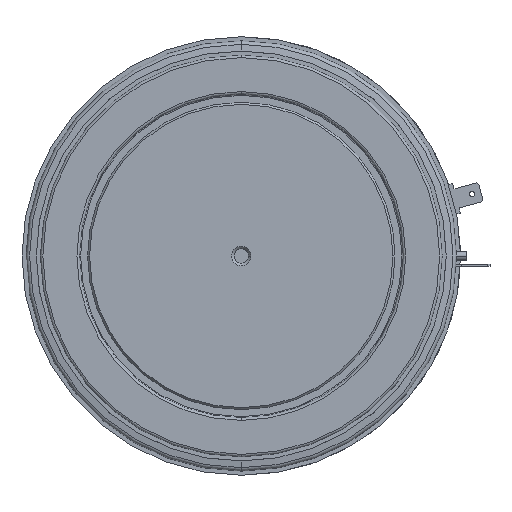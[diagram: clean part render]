
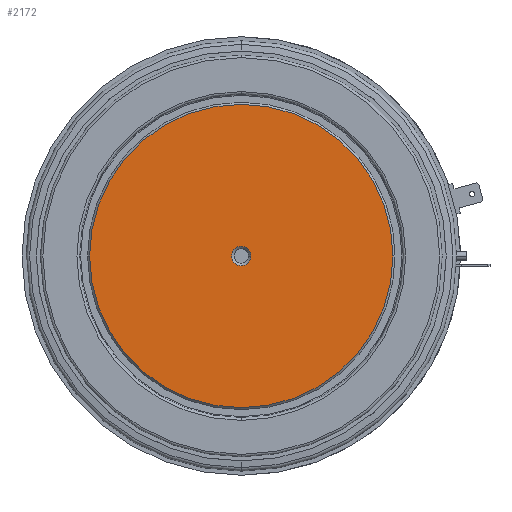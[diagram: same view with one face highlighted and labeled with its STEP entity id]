
A CAD part, front view. The second image highlights one B-rep face of the part: STEP entity #2172.
In plain terms, the highlighted planar face has unit normal (0, -1, 0).
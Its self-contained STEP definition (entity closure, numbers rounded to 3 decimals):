
#69 = AXIS2_PLACEMENT_3D ( 'NONE', #2952, #5217, #3436 ) ;
#111 = DIRECTION ( 'NONE',  ( 0., 1., 0. ) ) ;
#1031 = AXIS2_PLACEMENT_3D ( 'NONE', #1793, #5885, #6471 ) ;
#1152 = CARTESIAN_POINT ( 'NONE',  ( 37., -26., 0. ) ) ;
#1171 = VERTEX_POINT ( 'NONE', #3638 ) ;
#1339 = DIRECTION ( 'NONE',  ( -1., 0., 0. ) ) ;
#1365 = CARTESIAN_POINT ( 'NONE',  ( 0., -26., 0. ) ) ;
#1371 = AXIS2_PLACEMENT_3D ( 'NONE', #7202, #4195, #5562 ) ;
#1425 = AXIS2_PLACEMENT_3D ( 'NONE', #1365, #4823, #1339 ) ;
#1761 = CIRCLE ( 'NONE', #69, 37. ) ;
#1793 = CARTESIAN_POINT ( 'NONE',  ( 0., -26., 0. ) ) ;
#1825 = VERTEX_POINT ( 'NONE', #7037 ) ;
#2165 = ORIENTED_EDGE ( 'NONE', *, *, #3627, .T. ) ;
#2172 = ADVANCED_FACE ( 'NONE', ( #4448, #2920 ), #3838, .F. ) ;
#2270 = CIRCLE ( 'NONE', #1031, 2.35 ) ;
#2430 = EDGE_CURVE ( 'NONE', #4339, #1171, #1761, .T. ) ;
#2514 = ORIENTED_EDGE ( 'NONE', *, *, #4966, .F. ) ;
#2920 = FACE_BOUND ( 'NONE', #4183, .T. ) ;
#2952 = CARTESIAN_POINT ( 'NONE',  ( 0., -26., 0. ) ) ;
#3436 = DIRECTION ( 'NONE',  ( -1., 0., 0. ) ) ;
#3534 = EDGE_CURVE ( 'NONE', #4080, #1825, #2270, .T. ) ;
#3627 = EDGE_CURVE ( 'NONE', #1825, #4080, #6947, .T. ) ;
#3630 = AXIS2_PLACEMENT_3D ( 'NONE', #4058, #111, #4123 ) ;
#3638 = CARTESIAN_POINT ( 'NONE',  ( -37., -26., 0. ) ) ;
#3838 = PLANE ( 'NONE',  #1371 ) ;
#4058 = CARTESIAN_POINT ( 'NONE',  ( 0., -26., 0. ) ) ;
#4080 = VERTEX_POINT ( 'NONE', #7356 ) ;
#4123 = DIRECTION ( 'NONE',  ( -1., 0., 0. ) ) ;
#4183 = EDGE_LOOP ( 'NONE', ( #6697, #2165 ) ) ;
#4195 = DIRECTION ( 'NONE',  ( 0., 1., 0. ) ) ;
#4339 = VERTEX_POINT ( 'NONE', #1152 ) ;
#4448 = FACE_OUTER_BOUND ( 'NONE', #4635, .T. ) ;
#4635 = EDGE_LOOP ( 'NONE', ( #2514, #4940 ) ) ;
#4823 = DIRECTION ( 'NONE',  ( 0., 1., 0. ) ) ;
#4940 = ORIENTED_EDGE ( 'NONE', *, *, #2430, .F. ) ;
#4966 = EDGE_CURVE ( 'NONE', #1171, #4339, #5800, .T. ) ;
#5217 = DIRECTION ( 'NONE',  ( 0., 1., 0. ) ) ;
#5562 = DIRECTION ( 'NONE',  ( -1., 0., 0. ) ) ;
#5800 = CIRCLE ( 'NONE', #3630, 37. ) ;
#5885 = DIRECTION ( 'NONE',  ( 0., 1., 0. ) ) ;
#6471 = DIRECTION ( 'NONE',  ( -1., 0., 0. ) ) ;
#6697 = ORIENTED_EDGE ( 'NONE', *, *, #3534, .T. ) ;
#6947 = CIRCLE ( 'NONE', #1425, 2.35 ) ;
#7037 = CARTESIAN_POINT ( 'NONE',  ( -2.35, -26., 0. ) ) ;
#7202 = CARTESIAN_POINT ( 'NONE',  ( -37., -26., 0. ) ) ;
#7356 = CARTESIAN_POINT ( 'NONE',  ( 2.35, -26., 0. ) ) ;
